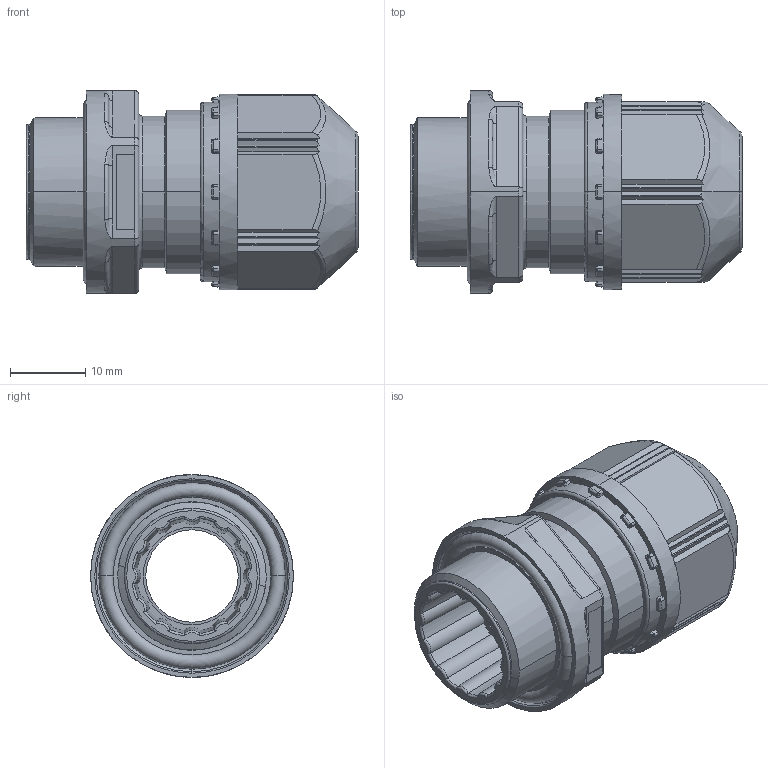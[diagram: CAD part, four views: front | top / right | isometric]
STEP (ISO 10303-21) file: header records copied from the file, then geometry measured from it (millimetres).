
FILE_DESCRIPTION(('Creo Elements/Direct Modeling STEP Export'),'2;1');
FILE_NAME('H18-0014-CL901-02_OA-WW20M-04／12.stp','2022-09-15T13:41:51',(''),(''),'Creo Elements/Direct Modeling STEP processor for AP214 (Solid Model)','Creo Elements/Direct Modeling 20.3A 20-Jun-2020 (C) Parametric Technology GmbH','');
FILE_SCHEMA(('AUTOMOTIVE_DESIGN { 1 0 10303 214 1 1 1 1 }'));
Length unit declared in the file: millimetre
Products named in the file (2): Nipple; OA-WW20M-04-12
Assembly tree (1 placements, depth 2):
  OA-WW20M-04-12
    Nipple
Bounding box: 44.2 x 27 x 27 mm (x, y, z)
Volume: 12290 mm3; surface area: 6849.8 mm2
Topology: 1 solids, 1 shells, 458 faces, 1161 edges, 723 vertices
Faces by surface type: plane 132, bspline 126, cylinder 84, torus 80, cone 36
Entity records: 24563 total; most frequent: CARTESIAN_POINT 14400, ORIENTED_EDGE 2322, DIRECTION 1814, EDGE_CURVE 1161, AXIS2_PLACEMENT_3D 744, VERTEX_POINT 723, EDGE_LOOP 478, FACE_OUTER_BOUND 458
